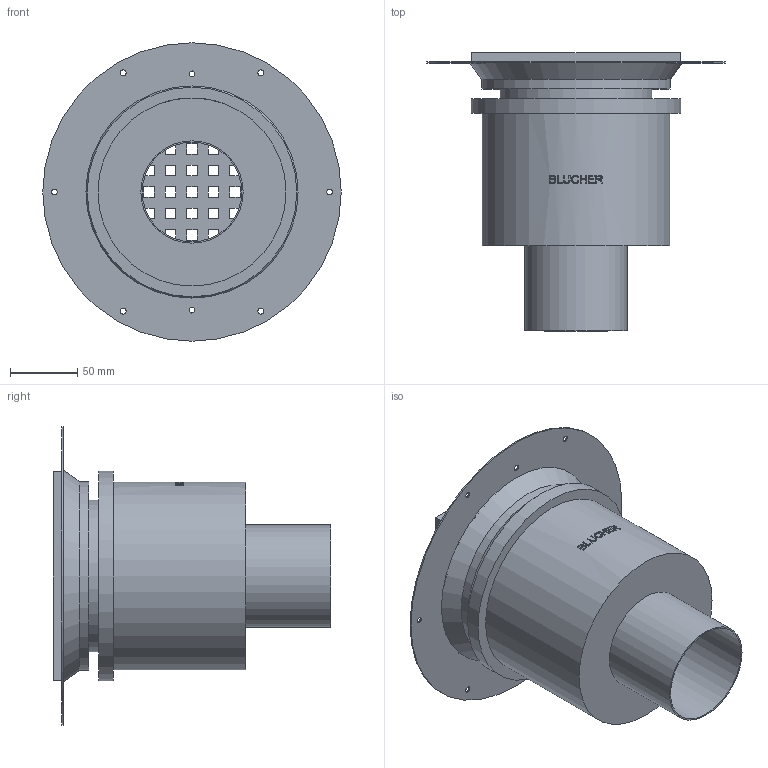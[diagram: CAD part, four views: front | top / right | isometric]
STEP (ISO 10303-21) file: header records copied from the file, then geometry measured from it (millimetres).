
FILE_DESCRIPTION((''),'2;1');
FILE_NAME('C:\Drawings\3D_CAD_Models\Blucher\Showers\BSS_Shower Drains with Square Top_Complete_091110\WebsiteFiles\3D\STEP\BSS-303.stp','2009-11-20T15:24:49',('hofmansp'),(''),'Autodesk Inventor 2010','Autodesk Inventor 2010','');
FILE_SCHEMA(('AUTOMOTIVE_DESIGN { 1 0 10303 214 1 1 1 1 }'));
Length unit declared in the file: inch
Products named in the file (1): BSS-303
Bounding box: 222.25 x 206.9 x 222.25 mm (x, y, z)
Volume: 331851.3 mm3; surface area: 328049.5 mm2
Topology: 1 solids, 1 shells, 353 faces, 1056 edges, 688 vertices
Faces by surface type: plane 285, bspline 42, cylinder 24, cone 2
Full cylindrical faces by diameter (mm): 74.2 x1, 76.2 x1, 109.5 x1, 111 x1, 111.5 x1, 113 x2, 138.029 x1, 138.6 x1, 140.029 x1, 140.6 x1, 155.575 x1, 156 x1, 222.25 x1
Entity records: 22795 total; most frequent: CARTESIAN_POINT 13084, ORIENTED_EDGE 2036, DIRECTION 1662, EDGE_CURVE 1018, VECTOR 772, LINE 772, VERTEX_POINT 674, EDGE_LOOP 498
